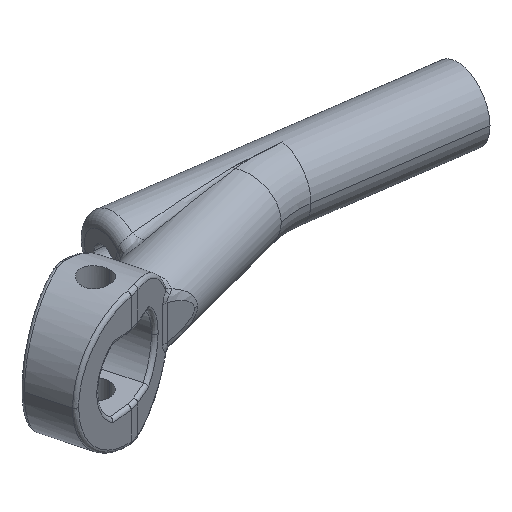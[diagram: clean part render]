
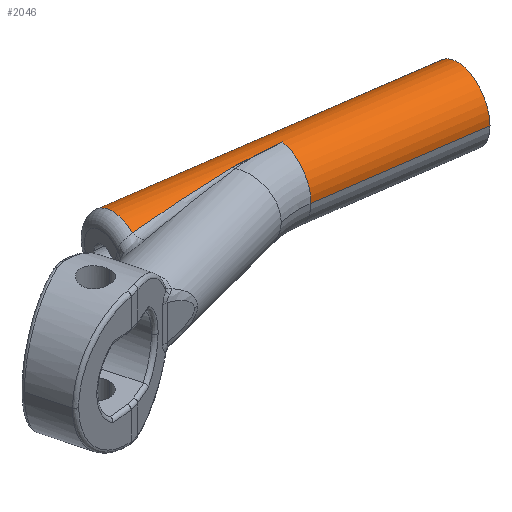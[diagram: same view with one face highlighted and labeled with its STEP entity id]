
A CAD part, isometric view. The second image highlights one B-rep face of the part: STEP entity #2046.
In plain terms, the highlighted cylindrical face has radius 3 mm (diameter 6 mm), a partial arc.
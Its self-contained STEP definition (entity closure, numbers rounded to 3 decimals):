
#41 = CIRCLE ( 'NONE', #1442, 3. ) ;
#94 = FACE_OUTER_BOUND ( 'NONE', #1848, .T. ) ;
#111 = ORIENTED_EDGE ( 'NONE', *, *, #2674, .T. ) ;
#227 = CYLINDRICAL_SURFACE ( 'NONE', #800, 3. ) ;
#316 = CARTESIAN_POINT ( 'NONE',  ( 34.904, -0.05, 0. ) ) ;
#344 = DIRECTION ( 'NONE',  ( 0.99, -0.143, 0. ) ) ;
#390 = VERTEX_POINT ( 'NONE', #3747 ) ;
#394 = CARTESIAN_POINT ( 'NONE',  ( 21.471, 4.916, 3. ) ) ;
#422 = CARTESIAN_POINT ( 'NONE',  ( 20.791, 5.012, 3. ) ) ;
#591 = VERTEX_POINT ( 'NONE', #316 ) ;
#630 = CARTESIAN_POINT ( 'NONE',  ( 21.898, 7.885, 0. ) ) ;
#665 = EDGE_CURVE ( 'NONE', #390, #2546, #1697, .T. ) ;
#800 = AXIS2_PLACEMENT_3D ( 'NONE', #940, #344, #3279 ) ;
#863 = DIRECTION ( 'NONE',  ( 0.99, -0.143, 0. ) ) ;
#882 = CARTESIAN_POINT ( 'NONE',  ( 14.123, 5.157, 2.931 ) ) ;
#929 = CARTESIAN_POINT ( 'NONE',  ( 8.367, 5.102, 2.482 ) ) ;
#940 = CARTESIAN_POINT ( 'NONE',  ( 21.471, 4.916, 0. ) ) ;
#1061 = ORIENTED_EDGE ( 'NONE', *, *, #665, .F. ) ;
#1151 = VERTEX_POINT ( 'NONE', #394 ) ;
#1225 = CARTESIAN_POINT ( 'NONE',  ( 17.363, 5.189, 2.983 ) ) ;
#1226 = B_SPLINE_CURVE_WITH_KNOTS ( 'NONE', 3,
 ( #1569, #1868, #1914, #2219, #422, #3132 ),
 .UNSPECIFIED., .F., .F.,
 ( 4, 2, 4 ),
 ( 0., 0.002, 0.004 ),
 .UNSPECIFIED. ) ;
#1399 = VERTEX_POINT ( 'NONE', #2709 ) ;
#1404 = ORIENTED_EDGE ( 'NONE', *, *, #1720, .T. ) ;
#1442 = AXIS2_PLACEMENT_3D ( 'NONE', #2407, #2714, #1809 ) ;
#1455 = DIRECTION ( 'NONE',  ( 0.143, 0.99, 0. ) ) ;
#1569 = CARTESIAN_POINT ( 'NONE',  ( 17.363, 5.189, 2.983 ) ) ;
#1697 = LINE ( 'NONE', #630, #3572 ) ;
#1720 = EDGE_CURVE ( 'NONE', #1399, #1151, #1226, .T. ) ;
#1809 = DIRECTION ( 'NONE',  ( -0.143, -0.99, 0. ) ) ;
#1848 = EDGE_LOOP ( 'NONE', ( #2459, #1857, #2325, #1061, #2244, #111, #1404 ) ) ;
#1857 = ORIENTED_EDGE ( 'NONE', *, *, #3293, .T. ) ;
#1868 = CARTESIAN_POINT ( 'NONE',  ( 18.049, 5.195, 2.994 ) ) ;
#1914 = CARTESIAN_POINT ( 'NONE',  ( 18.736, 5.176, 2.998 ) ) ;
#1984 = CARTESIAN_POINT ( 'NONE',  ( 8.367, 5.102, 2.482 ) ) ;
#2046 = ADVANCED_FACE ( 'NONE', ( #94 ), #227, .T. ) ;
#2087 = AXIS2_PLACEMENT_3D ( 'NONE', #3370, #3667, #3693 ) ;
#2192 = CARTESIAN_POINT ( 'NONE',  ( 21.043, 1.947, 0. ) ) ;
#2196 = VERTEX_POINT ( 'NONE', #1984 ) ;
#2219 = CARTESIAN_POINT ( 'NONE',  ( 20.107, 5.086, 3. ) ) ;
#2244 = ORIENTED_EDGE ( 'NONE', *, *, #3240, .T. ) ;
#2325 = ORIENTED_EDGE ( 'NONE', *, *, #2651, .F. ) ;
#2407 = CARTESIAN_POINT ( 'NONE',  ( 35.332, 2.92, 0. ) ) ;
#2412 = DIRECTION ( 'NONE',  ( 0.99, -0.143, 0. ) ) ;
#2459 = ORIENTED_EDGE ( 'NONE', *, *, #3083, .T. ) ;
#2546 = VERTEX_POINT ( 'NONE', #3711 ) ;
#2632 = CARTESIAN_POINT ( 'NONE',  ( 21.043, 1.947, 0. ) ) ;
#2640 = DIRECTION ( 'NONE',  ( 0.99, -0.143, 0. ) ) ;
#2651 = EDGE_CURVE ( 'NONE', #2546, #591, #41, .T. ) ;
#2674 = EDGE_CURVE ( 'NONE', #2196, #1399, #3685, .T. ) ;
#2709 = CARTESIAN_POINT ( 'NONE',  ( 17.363, 5.189, 2.983 ) ) ;
#2714 = DIRECTION ( 'NONE',  ( 0.99, -0.143, 0. ) ) ;
#2997 = AXIS2_PLACEMENT_3D ( 'NONE', #3473, #2640, #1455 ) ;
#3000 = CARTESIAN_POINT ( 'NONE',  ( 11.063, 5.128, 2.761 ) ) ;
#3015 = LINE ( 'NONE', #2632, #3704 ) ;
#3072 = VERTEX_POINT ( 'NONE', #2192 ) ;
#3083 = EDGE_CURVE ( 'NONE', #1151, #3072, #3790, .T. ) ;
#3132 = CARTESIAN_POINT ( 'NONE',  ( 21.471, 4.916, 3. ) ) ;
#3240 = EDGE_CURVE ( 'NONE', #390, #2196, #3330, .T. ) ;
#3279 = DIRECTION ( 'NONE',  ( 0.143, 0.99, 0. ) ) ;
#3293 = EDGE_CURVE ( 'NONE', #3072, #591, #3015, .T. ) ;
#3330 = CIRCLE ( 'NONE', #2997, 3. ) ;
#3370 = CARTESIAN_POINT ( 'NONE',  ( 21.471, 4.916, 0. ) ) ;
#3473 = CARTESIAN_POINT ( 'NONE',  ( 8.607, 6.769, 0. ) ) ;
#3572 = VECTOR ( 'NONE', #2412, 1000. ) ;
#3667 = DIRECTION ( 'NONE',  ( 0.99, -0.143, 0. ) ) ;
#3685 =( BOUNDED_CURVE ( )  B_SPLINE_CURVE ( 3, ( #929, #3000, #882, #1225 ),
 .UNSPECIFIED., .F., .T. ) 
 B_SPLINE_CURVE_WITH_KNOTS ( ( 4, 4 ),
 ( 4.116, 4.607 ),
 .UNSPECIFIED. ) 
 CURVE ( )  GEOMETRIC_REPRESENTATION_ITEM ( )  RATIONAL_B_SPLINE_CURVE ( ( 1., 0.98, 0.98, 1. ) ) 
 REPRESENTATION_ITEM ( '' )  );
#3693 = DIRECTION ( 'NONE',  ( 0.143, 0.99, 0. ) ) ;
#3704 = VECTOR ( 'NONE', #863, 1000. ) ;
#3711 = CARTESIAN_POINT ( 'NONE',  ( 35.759, 5.889, 0. ) ) ;
#3747 = CARTESIAN_POINT ( 'NONE',  ( 9.035, 9.738, 0. ) ) ;
#3790 = CIRCLE ( 'NONE', #2087, 3. ) ;
